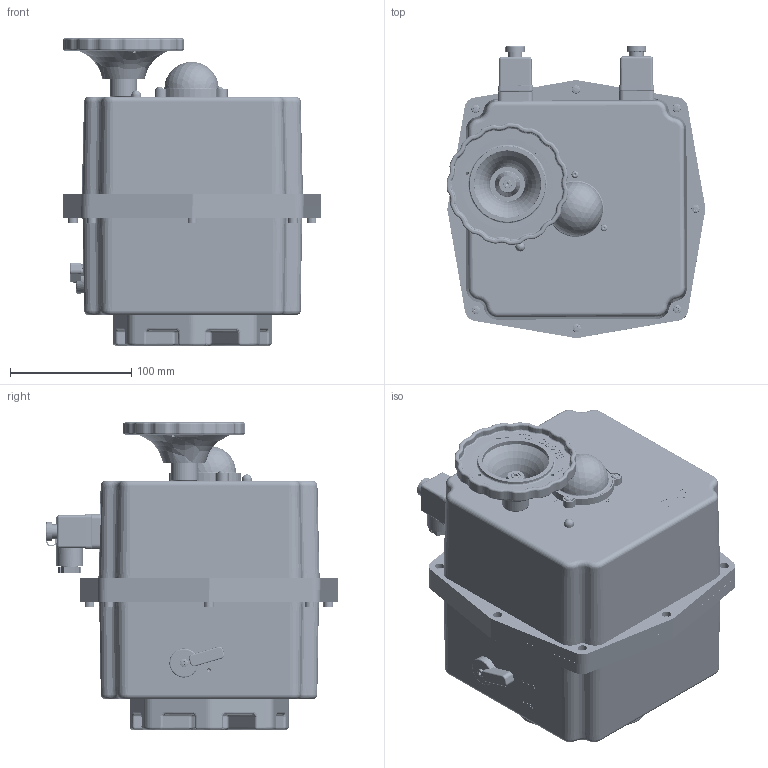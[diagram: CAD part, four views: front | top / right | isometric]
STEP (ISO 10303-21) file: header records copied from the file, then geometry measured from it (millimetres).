
FILE_DESCRIPTION (( 'STEP AP214' ), '1' );
FILE_NAME ('J4C 140 cerrado.STEP', '2024-02-27T14:02:54', ( '' ), ( '' ), 'SwSTEP 2.0', 'SolidWorks 2020', '' );
FILE_SCHEMA (( 'AUTOMOTIVE_DESIGN' ));
Length unit declared in the file: millimetre
Products named in the file (83): ABSR151.stp; ABSR153.stp; AP00476 MODIFICAT 140_300.stp; AP00541.stp; ~~CUERPO~2.stp; ABSR131.stp; AP00972.stp; ABSR1510.stp; ABSR16.stp; ABSR158.stp; AP00019 BASE CONECTOR GRIS + JUNTA.stp; CONECTOR GRAN AMB TAP 3D.stp; ABSR132.stp; TAPA J3C 140 300-85.stp; ULL DE BOU.stp; AP00375.stp; ABSR135.stp; ABSR157.stp; _U305.stp; MM00258 INDICADOR J4C 1BARRETA.stp; ABSR161.stp; ABSR1310.stp; _U247.stp; ~DIN 912 - M3 X 30.stp; J4C140.stp; CAJA.stp; ABSR1311.stp; ~~JUNTA D6,5X13X5.stp; ABSR133.stp; AP00322 JUNTA CONECTOR GRAN.stp; ~~JUNTA CUADRADA 40.stp; AP00962.stp; ABSR1512.stp; _U250.stp; ABSR154.stp; _U248.stp; ABSR15.stp; ~AP00322 JUNTA CONECTOR GRAN.stp; _U304.stp; CONJUNT (01).stp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
Assembly tree (107 placements, depth 7):
  J4C 140 cerrado
    J4C140.stp
      AP00019 BASE CONECTOR GRIS + JUNTA.stp
        AP00324 BASE CONEC NEGRE.stp
        AP00322 JUNTA CONECTOR GRAN.stp
        _U247.stp
        _U248.stp
      MM00004 BASE CONECTOR PEQUE_A.stp
        AP00324 BASE CONECTOR NEGRE + JUNTA.stp
          ~AP00324 BASE CONEC NEGRE.stp
          ~AP00322 JUNTA CONECTOR GRAN.stp
          _U250.stp
          _U251.stp
        _U249.stp
          _U250.stp
          _U251.stp
      AP00972.stp
        CAJA.stp
          ABSR13.stp
          ABSR131.stp
          ABSR132.stp
          ABSR133.stp
          ABSR134.stp
          ABSR135.stp
          ABSR136.stp
          ABSR137.stp
          ABSR138.stp
          ABSR139.stp
          ABSR1310.stp
          ABSR1311.stp
          ABSR1312.stp
          ABSR1313.stp
        _U305.stp
          ABSR15.stp
          ABSR151.stp
          ABSR152.stp
          ABSR153.stp
          ABSR154.stp
          ABSR155.stp
          ABSR156.stp
          ABSR157.stp
          ABSR158.stp
          ABSR159.stp
          ABSR1510.stp
          ABSR1511.stp
          ABSR1512.stp
          ABSR1513.stp
        ~~PIEZA1.stp
        _U304.stp
      TAPA J3C 140 300-85.stp
        ABSR16.stp
        ABSR161.stp
      CONECTOR GRAN JUNT NEGRA.stp
        CONECTOR GRAN AMB TAP 3D.stp
          TAP CARGOL CONNECTORS (01).stp
            CONJUNT (01).stp
              TAPA CONNECTORS M3 I M4 (005).stp
          R_CORD D10,5.stp
          ~~ARANDELA D10XD13.stp
          ~~JUNTA D6,5X13X5.stp
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Bounding box: 213.61 x 241.08 x 253.42 mm (x, y, z)
Volume: 1543157 mm3; surface area: 784779.5 mm2
Topology: 85 solids, 87 shells, 8036 faces, 20330 edges, 12695 vertices
Faces by surface type: cylinder 2955, plane 2023, torus 1449, cone 1054, bspline 493, sphere 62
Entity records: 179373 total; most frequent: CARTESIAN_POINT 46860, DIRECTION 28616, ORIENTED_EDGE 26548, EDGE_CURVE 13280, AXIS2_PLACEMENT_3D 11320, VERTEX_POINT 8381, CIRCLE 6283, LINE 5976
